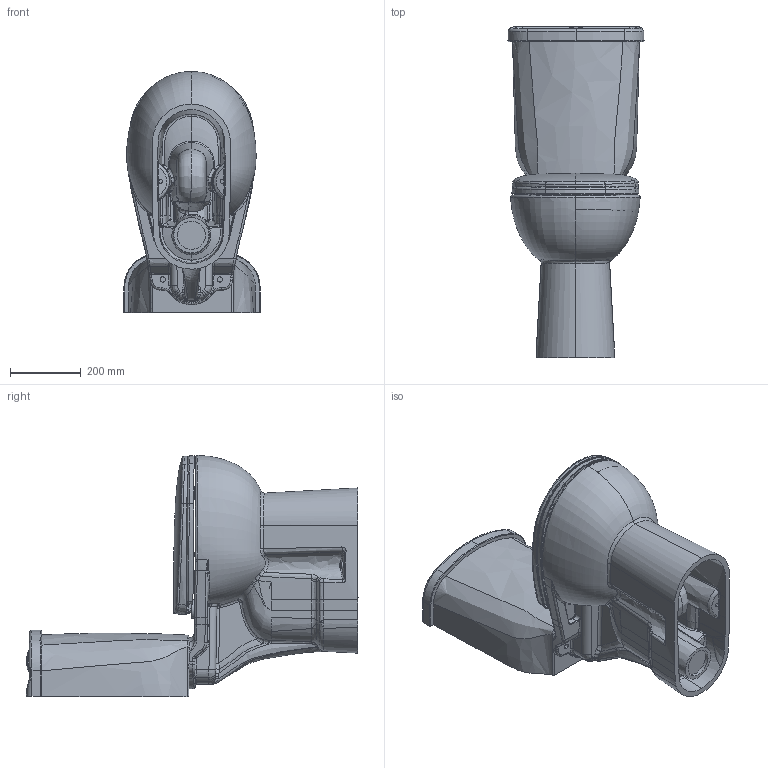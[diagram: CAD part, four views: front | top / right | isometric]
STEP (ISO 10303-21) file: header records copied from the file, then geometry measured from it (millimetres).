
FILE_DESCRIPTION (( 'STEP AP203' ), '1' );
FILE_NAME ('BD305-00CB00E-0000+SD410-00CB00E-0000-.STEP', '2023-06-05T13:22:29', ( '' ), ( '' ), 'SwSTEP 2.0', 'SolidWorks 2023', '' );
FILE_SCHEMA (( 'CONFIG_CONTROL_DESIGN' ));
Products named in the file (1): BD305-00CB00E-0000+SD410-00CB00E-0000-
Bounding box: 385.93 x 941.89 x 684 mm (x, y, z)
Surface area: 3269786.8 mm2 (no closed solid volume)
Topology: 0 solids, 27 shells, 2259 faces, 5994 edges, 3769 vertices
Faces by surface type: bspline 1377, plane 460, cylinder 252, cone 88, torus 57, sphere 25
Entity records: 563823 total; most frequent: CARTESIAN_POINT 526258, ORIENTED_EDGE 11808, EDGE_CURVE 5932, B_SPLINE_CURVE_WITH_KNOTS 5028, VERTEX_POINT 3769, EDGE_LOOP 2339, FACE_OUTER_BOUND 2259, ADVANCED_FACE 2259
